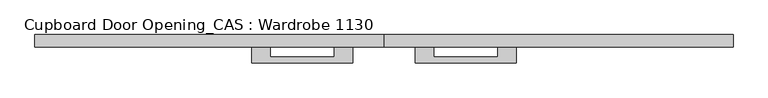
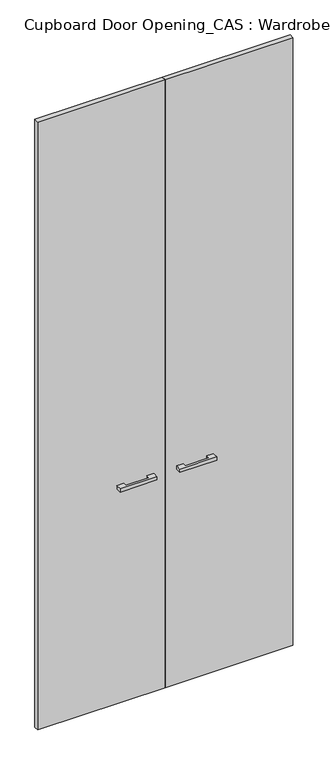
"""IFC4 building model written with IfcOpenShell, lengths in millimetres: furniture geometry, Cupboard Door Opening_CAS : Wardrobe 1130."""

from ifc_helpers import new_model, si_unit, frame, origin, origin_with_axes, place, context, project, spatial, polyline, outline, extrude, source, transform, mapped, element, save


def cupboard_door_opening_cas_wardrobe_1130_6d5b63c7(model_context):
    return source(origin(), model_context, "Body", "SweptSolid", [
        extrude(outline(polyline([(175.0, -84.0), (175.0, -59.0), (204.0, -59.0), (204.0, -74.0), (306.0, -74.0), (306.0, -59.0), (335.0, -59.0), (335.0, -84.0), (175.0, -84.0)])), frame((0.0, 0.0, 987.5), z_axis=(0.0, 0.0, 1.0), x_axis=(1.0, 0.0, 0.0)), (0.0, 0.0, 1.0), 15.0),
        extrude(outline(polyline([(680.0, -59.0), (125.0, -59.0), (125.0, -39.0), (680.0, -39.0), (680.0, -59.0)])), origin_with_axes(), (0.0, 0.0, 1.0), 2795.0),
        extrude(outline(polyline([(75.0, -84.0), (-85.0, -84.0), (-85.0, -59.0), (-56.0, -59.0), (-56.0, -74.0), (46.0, -74.0), (46.0, -59.0), (75.0, -59.0), (75.0, -84.0)])), frame((0.0, 0.0, 987.5), z_axis=(0.0, 0.0, 1.0), x_axis=(1.0, 0.0, 0.0)), (0.0, 0.0, 1.0), 15.0),
        extrude(outline(polyline([(-430.0, -59.0), (-430.0, -39.0), (125.0, -39.0), (125.0, -59.0), (-430.0, -59.0)])), origin_with_axes(), (0.0, 0.0, 1.0), 2795.0),
    ])


if __name__ == "__main__":
    model = new_model("IFC4")
    model_context = context("Model", 3, world=origin())
    ifc_project = project(units=[si_unit("LENGTHUNIT", "METRE", prefix="MILLI")], contexts=[model_context])
    site = spatial("IfcSite", under=ifc_project)
    building = spatial("IfcBuilding", under=site)
    placement = place(None, origin())
    cupboard_door_opening_cas_wardrobe_1130_shape = cupboard_door_opening_cas_wardrobe_1130_6d5b63c7(model_context)
    element("IfcFurniture", 1, ObjectType="Cupboard Door Opening_CAS : Wardrobe 1130", at=placement, inside=building, context=model_context, shape_type="MappedRepresentation", body=[
        mapped(cupboard_door_opening_cas_wardrobe_1130_shape, transform((0.0, 0.0, 0.0), x_axis=(1.0, 0.0, 0.0), y_axis=(0.0, 1.0, 0.0), z_axis=(0.0, 0.0, 1.0))),
    ])
    save(model, "model.ifc")
